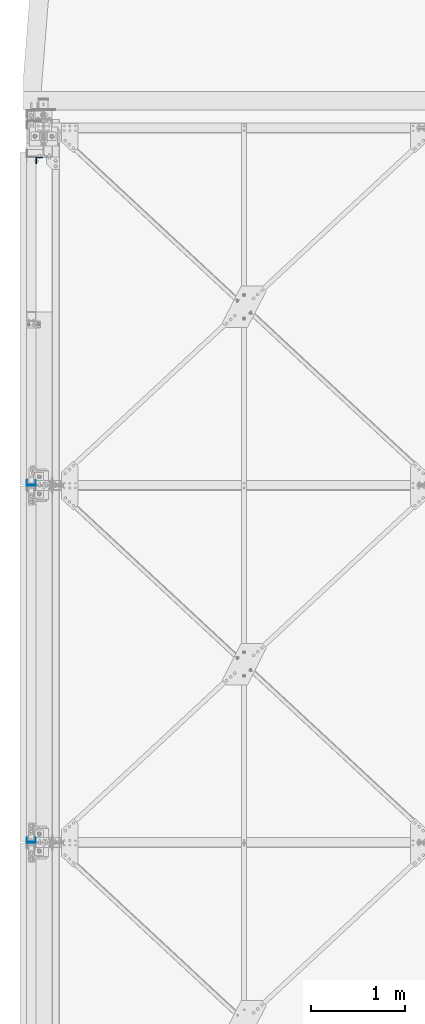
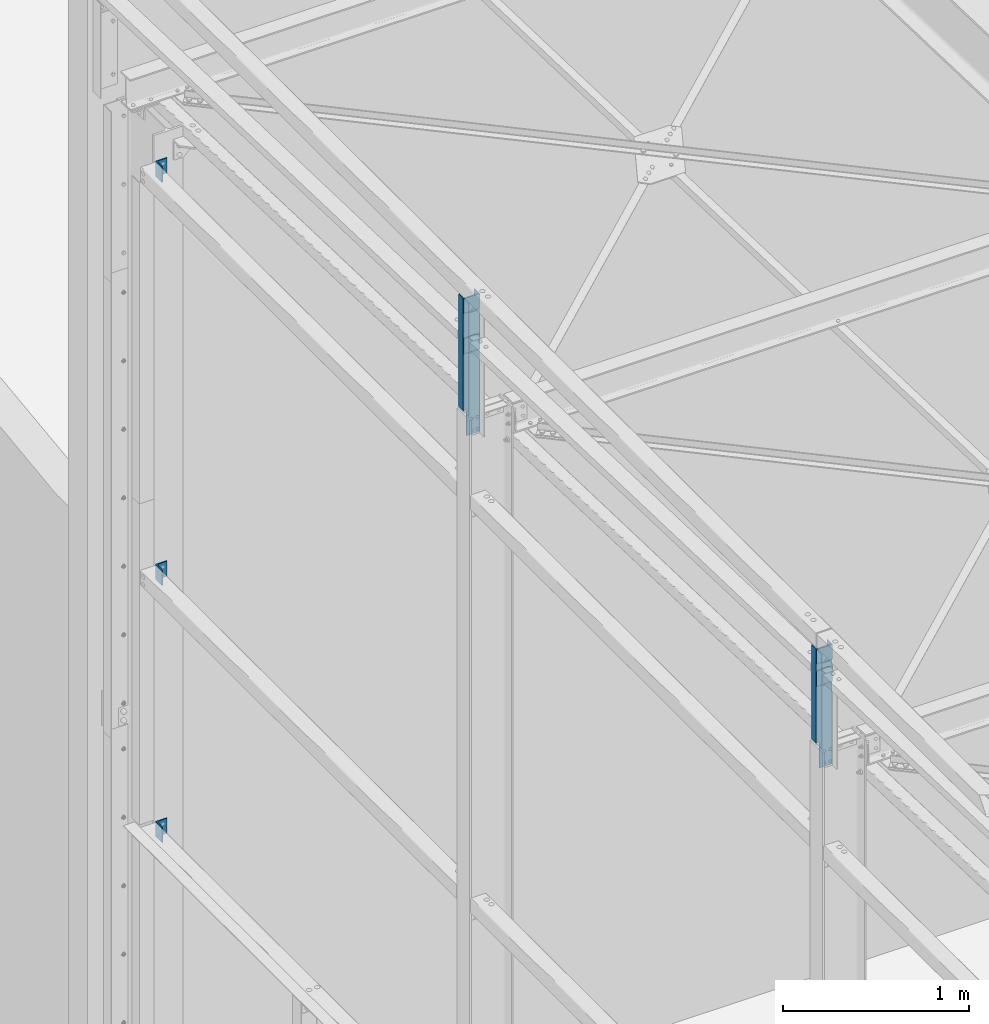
# One storey, part 23 of 362: 9 columns, 9 elements without a shape of their own.
"""IFC2X3 building model written with IfcOpenShell, lengths in millimetres."""

from ifc_helpers import new_model, si_unit, frame, origin_with_axes, origin_2d_with_axis, place, context, subcontext, project, spatial, polyline, rectangle, l_section, u_section, outline, extrude, boolean, material, type_object, element, aggregate, save


model = new_model("IFC2X3")

# Units and contexts
model_context = context("Model", 3, precision=1e-05, world=origin_with_axes())
body_context = subcontext(model_context, "Body", "Model", "MODEL_VIEW")
ifc_project = project(units=[si_unit("LENGTHUNIT", "METRE", prefix="MILLI"), si_unit("AREAUNIT", "SQUARE_METRE"), si_unit("VOLUMEUNIT", "CUBIC_METRE"), si_unit("MASSUNIT", "GRAM", prefix="KILO"), si_unit("TIMEUNIT", "SECOND"), si_unit("PLANEANGLEUNIT", "RADIAN"), si_unit("SOLIDANGLEUNIT", "STERADIAN"), si_unit("THERMODYNAMICTEMPERATUREUNIT", "DEGREE_CELSIUS"), si_unit("LUMINOUSINTENSITYUNIT", "LUMEN")], contexts=[model_context])

# Site, building, storey
site_placement = place(None, origin_with_axes())
site = spatial("IfcSite", under=ifc_project, at=site_placement, Name="Undefined", CompositionType="ELEMENT")
building_placement = place(site_placement, origin_with_axes())
building = spatial("IfcBuilding", under=site, at=building_placement, Name="Undefined", CompositionType="ELEMENT")
storey_placement = place(building_placement, origin_with_axes())
storey = spatial("IfcBuildingStorey", under=building, at=storey_placement, Name="Undefined", CompositionType="ELEMENT", Elevation=0.0)

# Assembly, column
assembly_1_placement = place(storey_placement, origin_with_axes())
assembly_1 = element("IfcElementAssembly", 1, at=assembly_1_placement, inside=storey, AssemblyPlace="NOTDEFINED", PredefinedType="NOTDEFINED")
ifc_material = material(Name="Undefined/S235-E24")
column_type_1 = type_object("IfcColumnType", Name="L70*7", PredefinedType="NOTDEFINED")
column_1_placement = place(assembly_1_placement, frame((-45.0000013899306, 14855.0031007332, 7100.00005189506), z_axis=(0.0, 0.0, 1.0), x_axis=(0.0, -1.0, 0.0)))
column_1 = element("IfcColumn", 2, at=column_1_placement, type_object=column_type_1, material=ifc_material, Name="ATTACHE", ObjectType="L70*7", context=body_context, shape_type="SweptSolid", body=[
    extrude(l_section(Depth=70.0, Width=70.0, Thickness=7.0, FilletRadius=9.0, EdgeRadius=4.5, at=origin_2d_with_axis()), frame((0.0, 0.0, 100.0), z_axis=(0.0, 0.0, -1.0), x_axis=(0.0, 1.0, 0.0)), (0.0, 0.0, 1.0), 100.0),
])
aggregate(assembly_1, [column_1])

assembly_2_placement = place(storey_placement, origin_with_axes())
assembly_2 = element("IfcElementAssembly", 3, at=assembly_2_placement, inside=storey, AssemblyPlace="NOTDEFINED", PredefinedType="NOTDEFINED")
column_2_placement = place(assembly_2_placement, frame((-45.0000013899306, 14855.0031513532, 2760.0000275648), z_axis=(0.0, 0.0, 1.0), x_axis=(0.0, -1.0, 0.0)))
column_2 = element("IfcColumn", 4, at=column_2_placement, type_object=column_type_1, material=ifc_material, Name="ATTACHE", ObjectType="L70*7", context=body_context, shape_type="SweptSolid", body=[
    extrude(l_section(Depth=70.0, Width=70.0, Thickness=7.0, FilletRadius=9.0, EdgeRadius=4.5, at=origin_2d_with_axis()), frame((0.0, 0.0, 100.0), z_axis=(0.0, 0.0, -1.0), x_axis=(0.0, 1.0, 0.0)), (0.0, 0.0, 1.0), 100.0),
])
aggregate(assembly_2, [column_2])

assembly_3_placement = place(storey_placement, origin_with_axes())
assembly_3 = element("IfcElementAssembly", 5, at=assembly_3_placement, inside=storey, AssemblyPlace="NOTDEFINED", PredefinedType="NOTDEFINED")
column_3_placement = place(assembly_3_placement, frame((-45.0000013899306, 14855.0031378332, 4450.00002768), z_axis=(0.0, 0.0, 1.0), x_axis=(0.0, -1.0, 0.0)))
column_3 = element("IfcColumn", 6, at=column_3_placement, type_object=column_type_1, material=ifc_material, Name="ATTACHE", ObjectType="L70*7", context=body_context, shape_type="SweptSolid", body=[
    extrude(l_section(Depth=70.0, Width=70.0, Thickness=7.0, FilletRadius=9.0, EdgeRadius=4.5, at=origin_2d_with_axis()), frame((0.0, 0.0, 100.0), z_axis=(0.0, 0.0, -1.0), x_axis=(0.0, 1.0, 0.0)), (0.0, 0.0, 1.0), 100.0),
])
aggregate(assembly_3, [column_3])

assembly_4_placement = place(storey_placement, origin_with_axes())
assembly_4 = element("IfcElementAssembly", 7, at=assembly_4_placement, inside=storey, AssemblyPlace="NOTDEFINED", PredefinedType="NOTDEFINED")
column_type_2 = type_object("IfcColumnType", Name="PL6*100", PredefinedType="NOTDEFINED")
column_4_placement = place(assembly_4_placement, frame((-129.999997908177, 11400.0000000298, 8082.99636005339), z_axis=(0.0, 0.0, 1.0), x_axis=(-1.0, 0.0, 0.0)))
column_4 = element("IfcColumn", 8, at=column_4_placement, type_object=column_type_2, material=ifc_material, Name="CALE", ObjectType="PL6*100", context=body_context, shape_type="SweptSolid", body=[
    extrude(rectangle(XDim=6.0, YDim=100.0, at=origin_2d_with_axis()), frame((0.0, 0.0, 100.0), z_axis=(0.0, 0.0, -1.0), x_axis=(0.0, 1.0, 0.0)), (0.0, 0.0, 1.0), 100.0),
])
aggregate(assembly_4, [column_4])

assembly_5_placement = place(storey_placement, origin_with_axes())
assembly_5 = element("IfcElementAssembly", 9, at=assembly_5_placement, inside=storey, AssemblyPlace="NOTDEFINED", PredefinedType="NOTDEFINED")
column_5_placement = place(assembly_5_placement, frame((-129.999997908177, 7600.00000002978, 8202.43), z_axis=(0.0, 0.0, 1.0), x_axis=(-1.0, 0.0, 0.0)))
column_5 = element("IfcColumn", 10, at=column_5_placement, type_object=column_type_2, material=ifc_material, Name="CALE", ObjectType="PL6*100", context=body_context, shape_type="SweptSolid", body=[
    extrude(rectangle(XDim=6.0, YDim=100.0, at=origin_2d_with_axis()), frame((0.0, 0.0, 100.0), z_axis=(0.0, 0.0, -1.0), x_axis=(0.0, 1.0, 0.0)), (0.0, 0.0, 1.0), 100.0),
])
aggregate(assembly_5, [column_5])

assembly_6_placement = place(storey_placement, origin_with_axes())
assembly_6 = element("IfcElementAssembly", 11, at=assembly_6_placement, inside=storey, AssemblyPlace="NOTDEFINED", PredefinedType="NOTDEFINED")
column_6_placement = place(assembly_6_placement, frame((-129.999997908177, 7600.00000002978, 8350.0), z_axis=(0.0, 0.0, 1.0), x_axis=(-1.0, 0.0, 0.0)))
column_6 = element("IfcColumn", 12, at=column_6_placement, type_object=column_type_2, material=ifc_material, Name="CALE", ObjectType="PL6*100", context=body_context, shape_type="SweptSolid", body=[
    extrude(rectangle(XDim=6.0, YDim=100.0, at=origin_2d_with_axis()), frame((0.0, 0.0, 95.0), z_axis=(0.0, 0.0, -1.0), x_axis=(0.0, 1.0, 0.0)), (0.0, 0.0, 1.0), 95.0),
])
aggregate(assembly_6, [column_6])

assembly_7_placement = place(storey_placement, origin_with_axes())
assembly_7 = element("IfcElementAssembly", 13, at=assembly_7_placement, inside=storey, AssemblyPlace="NOTDEFINED", PredefinedType="NOTDEFINED")
column_7_placement = place(assembly_7_placement, frame((-129.999997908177, 11400.0, 8350.0), z_axis=(0.0, 0.0, 1.0), x_axis=(-1.0, 0.0, 0.0)))
column_7 = element("IfcColumn", 14, at=column_7_placement, type_object=column_type_2, material=ifc_material, Name="CALE", ObjectType="PL6*100", context=body_context, shape_type="SweptSolid", body=[
    extrude(rectangle(XDim=6.0, YDim=100.0, at=origin_2d_with_axis()), frame((0.0, 0.0, 95.0), z_axis=(0.0, 0.0, -1.0), x_axis=(0.0, 1.0, 0.0)), (0.0, 0.0, 1.0), 95.0),
])
aggregate(assembly_7, [column_7])

assembly_8_placement = place(storey_placement, origin_with_axes())
assembly_8 = element("IfcElementAssembly", 15, at=assembly_8_placement, inside=storey, AssemblyPlace="NOTDEFINED", PredefinedType="NOTDEFINED")
column_type_3 = type_object("IfcColumnType", Name="UPF-100*50*4", PredefinedType="NOTDEFINED")
column_8_placement = place(assembly_8_placement, frame((-130.000001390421, 7628.29999998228, 7655.0002847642), z_axis=(0.0, 0.0, 1.0), x_axis=(1.0, 0.0, 0.0)))
column_8 = element("IfcColumn", 16, at=column_8_placement, type_object=column_type_3, material=ifc_material, Name="BAIONNETTE", ObjectType="UPF-100*50*4", context=body_context, shape_type="CSG", body=[
    boolean("DIFFERENCE", extrude(u_section(Depth=100.0, FlangeWidth=50.0, WebThickness=4.0, FlangeThickness=4.0, at=origin_2d_with_axis()), frame((0.0, 0.0, 789.998684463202), z_axis=(0.0, 0.0, -1.0), x_axis=(0.0, 1.0, 0.0)), (0.0, 0.0, 1.0), 790.0), extrude(outline(polyline([(0.0, 0.0), (19.9999999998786, -3.63797880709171e-12), (19.9999939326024, 170.0), (-6.06739681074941e-06, 170.0), (0.0, 0.0)])), frame((-50.0000000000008, -27.5000000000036, 170.000083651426), z_axis=(0.0, 1.0, 0.0), x_axis=(1.0, 0.0, 0.0)), (0.0, 0.0, 1.0), 55.0)),
])
aggregate(assembly_8, [column_8])

assembly_9_placement = place(storey_placement, origin_with_axes())
assembly_9 = element("IfcElementAssembly", 17, at=assembly_9_placement, inside=storey, AssemblyPlace="NOTDEFINED", PredefinedType="NOTDEFINED")
column_9_placement = place(assembly_9_placement, frame((-130.000001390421, 11428.2999999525, 7535.0013155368), z_axis=(0.0, 0.0, 1.0), x_axis=(1.0, 0.0, 0.0)))
column_9 = element("IfcColumn", 18, at=column_9_placement, type_object=column_type_3, material=ifc_material, Name="BAIONNETTE", ObjectType="UPF-100*50*4", context=body_context, shape_type="CSG", body=[
    boolean("DIFFERENCE", extrude(u_section(Depth=100.0, FlangeWidth=50.0, WebThickness=4.0, FlangeThickness=4.0, at=origin_2d_with_axis()), frame((0.0, 0.0, 909.998684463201), z_axis=(0.0, 0.0, -1.0), x_axis=(0.0, 1.0, 0.0)), (0.0, 0.0, 1.0), 910.0), extrude(outline(polyline([(0.0, 0.0), (19.9999999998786, -3.63797880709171e-12), (19.9999939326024, 170.0), (-6.06739681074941e-06, 170.0), (0.0, 0.0)])), frame((-50.0000000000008, -27.5, 170.0), z_axis=(0.0, 1.0, 0.0), x_axis=(1.0, 0.0, 0.0)), (0.0, 0.0, 1.0), 55.0)),
])
aggregate(assembly_9, [column_9])

save(model, "model.ifc")
